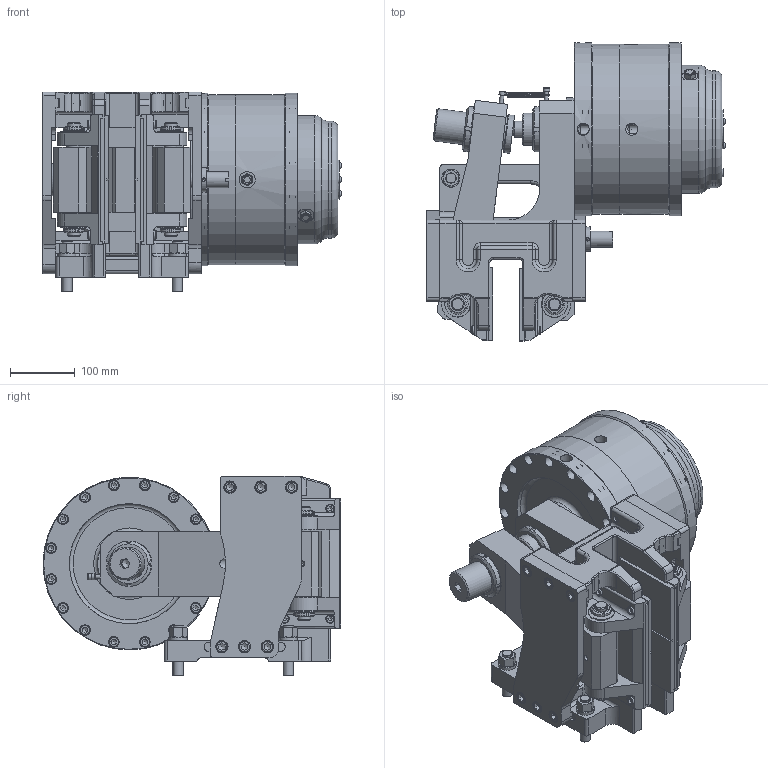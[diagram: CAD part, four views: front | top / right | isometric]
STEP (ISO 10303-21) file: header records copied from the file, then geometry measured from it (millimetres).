
FILE_DESCRIPTION(/* description */ ('','CAx-IF Rec.Pracs.---Representation and Presentation of Product Manufacturing Information (PMI)---4.0---2014-10-13'),/* implementation_level */ '2;1');
FILE_NAME(/* name */ 'X:\INVENTOR\DISEGNI\19_Pinze\STEP x Sito\PNEUM-NEGATIVE\19_36_070_06 PPT-N070_40.stp',/* time_stamp */ '2018-10-26T08:24:40+02:00',/* author */ ('stefano'),/* organization */ (''),/* preprocessor_version */ 'ST-DEVELOPER v17',/* originating_system */ 'Autodesk Inventor 2018',/* authorisation */ '');
FILE_SCHEMA (('AP242_MANAGED_MODEL_BASED_3D_ENGINEERING_MIM_LF { 1 0 10303 442 1 1 4 }'));
Products named in the file (1): 19_36_070_06 PPT-N070_40_Substitute_3
Bounding box: 459.35 x 459 x 308 mm (x, y, z)
Volume: 14924753.3 mm3; surface area: 1659422 mm2
Topology: 1 solids, 1 shells, 2122 faces, 5883 edges, 3976 vertices
Faces by surface type: plane 1113, cylinder 551, cone 240, torus 186, bspline 24, sphere 8
Full cylindrical faces by diameter (mm): 1.2 x2, 4.917 x6, 5 x4, 5.25 x4, 6 x2, 6.3 x6, 6.917 x1, 8 x8, 8.376 x17, 8.5 x8, 8.917 x1, 9.188 x1, 9.5 x3, 10 x6, 10.106 x10, 10.5 x16, 10.647 x2, 11.445 x4, 12 x14, 12.5 x12, 13 x9, 13.5 x8, 14 x1, 15 x2, 16 x38, 16.5 x46, 17 x5, 18 x14, 18.631 x2, 19 x12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
Entity records: 78108 total; most frequent: CARTESIAN_POINT 21975, ORIENTED_EDGE 11570, DIRECTION 11486, EDGE_CURVE 5785, AXIS2_PLACEMENT_3D 4469, VERTEX_POINT 3976, LINE 2548, VECTOR 2548
